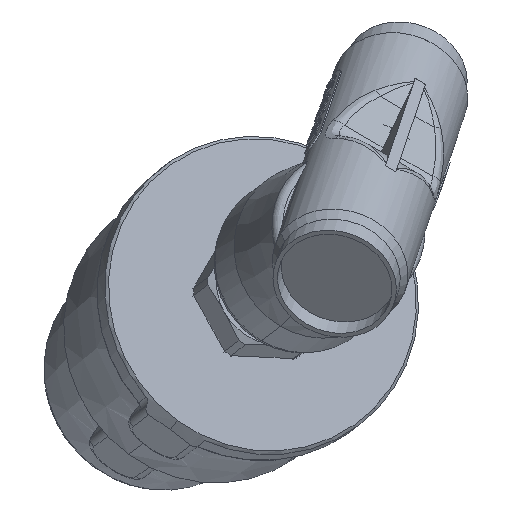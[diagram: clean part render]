
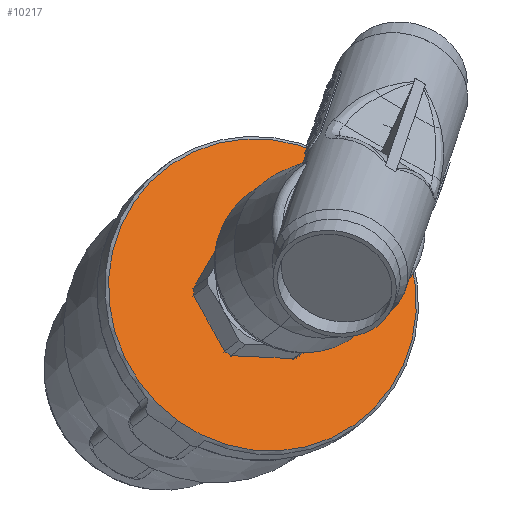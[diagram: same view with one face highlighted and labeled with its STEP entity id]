
A CAD part, front view. The second image highlights one B-rep face of the part: STEP entity #10217.
In plain terms, the highlighted planar face has unit normal (0.254, -0.948, 0.194) as drawn and (0, -1, 0) by its records, which use the part's own axes.
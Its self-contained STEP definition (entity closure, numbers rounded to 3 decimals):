
#1050 = ORIENTED_EDGE ( 'NONE', *, *, #31061, .F. ) ;
#2518 = CIRCLE ( 'NONE', #41554, 52. ) ;
#6341 = DIRECTION ( 'NONE',  ( 0., 1., 0. ) ) ;
#8754 = CARTESIAN_POINT ( 'NONE',  ( -46.5, 0., 0. ) ) ;
#9942 = AXIS2_PLACEMENT_3D ( 'NONE', #8754, #64783, #48317 ) ;
#10217 = ADVANCED_FACE ( 'NONE', ( #24149 ), #30819, .T. ) ;
#22542 = AXIS2_PLACEMENT_3D ( 'NONE', #45878, #6341, #57028 ) ;
#24149 = FACE_OUTER_BOUND ( 'NONE', #50350, .T. ) ;
#30819 = PLANE ( 'NONE',  #9942 ) ;
#31061 = EDGE_CURVE ( 'NONE', #44915, #34732, #2518, .T. ) ;
#32309 = EDGE_CURVE ( 'NONE', #34732, #44915, #44189, .T. ) ;
#34732 = VERTEX_POINT ( 'NONE', #61987 ) ;
#41554 = AXIS2_PLACEMENT_3D ( 'NONE', #65086, #70164, #64110 ) ;
#44189 = CIRCLE ( 'NONE', #22542, 52. ) ;
#44915 = VERTEX_POINT ( 'NONE', #70387 ) ;
#45878 = CARTESIAN_POINT ( 'NONE',  ( 0., 0., 0. ) ) ;
#48317 = DIRECTION ( 'NONE',  ( 0., 0., -1. ) ) ;
#50350 = EDGE_LOOP ( 'NONE', ( #61171, #1050 ) ) ;
#57028 = DIRECTION ( 'NONE',  ( 0., 0., 1. ) ) ;
#61171 = ORIENTED_EDGE ( 'NONE', *, *, #32309, .F. ) ;
#61987 = CARTESIAN_POINT ( 'NONE',  ( 0., 0., 52. ) ) ;
#64110 = DIRECTION ( 'NONE',  ( 0., 0., 1. ) ) ;
#64783 = DIRECTION ( 'NONE',  ( 0., -1., 0. ) ) ;
#65086 = CARTESIAN_POINT ( 'NONE',  ( 0., 0., 0. ) ) ;
#70164 = DIRECTION ( 'NONE',  ( 0., 1., 0. ) ) ;
#70387 = CARTESIAN_POINT ( 'NONE',  ( 0., 0., -52. ) ) ;
